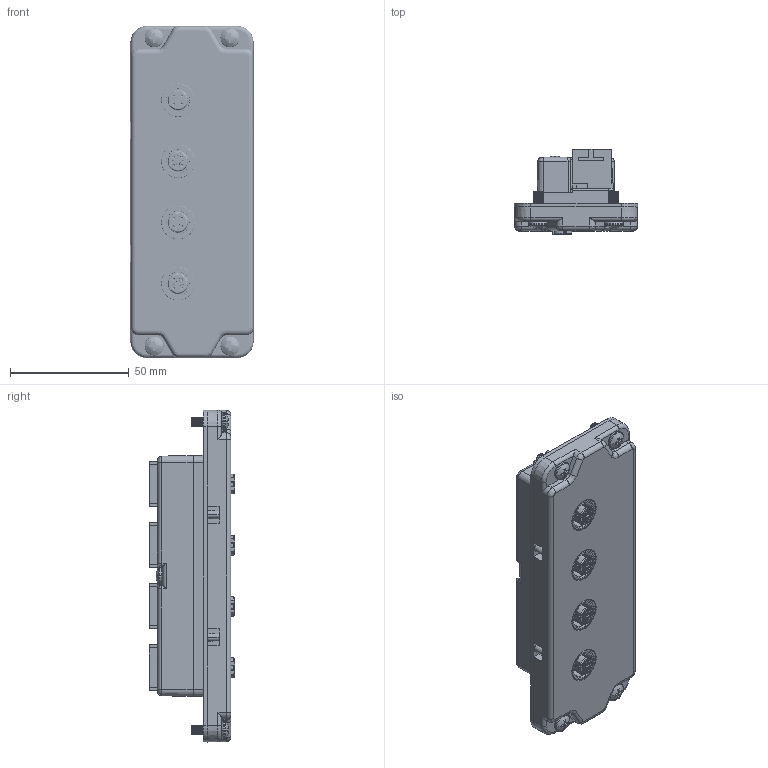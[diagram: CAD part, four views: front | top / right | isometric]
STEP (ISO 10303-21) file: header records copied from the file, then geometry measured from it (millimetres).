
FILE_DESCRIPTION (( 'STEP AP203' ), '1' );
FILE_NAME ('BIC-44-E424.step', '2014-07-15T19:28:43', ( 'Turck User' ), ( '' ), 'SwSTEP 2.0', 'SolidWorks 2014', '' );
FILE_SCHEMA (( 'CONFIG_CONTROL_DESIGN' ));
Length unit declared in the file: millimetre
Products named in the file (1): BIC-44-E424
Bounding box: 52 x 35.87 x 140 mm (x, y, z)
Volume: 98555.5 mm3; surface area: 73344.9 mm2
Topology: 1 solids, 1 shells, 3766 faces, 10612 edges, 6783 vertices
Faces by surface type: plane 1412, cylinder 1360, cone 771, bspline 223
Entity records: 148712 total; most frequent: CARTESIAN_POINT 53568, ORIENTED_EDGE 21158, DIRECTION 18683, EDGE_CURVE 10579, AXIS2_PLACEMENT_3D 6901, VERTEX_POINT 6783, LINE 4881, VECTOR 4881
